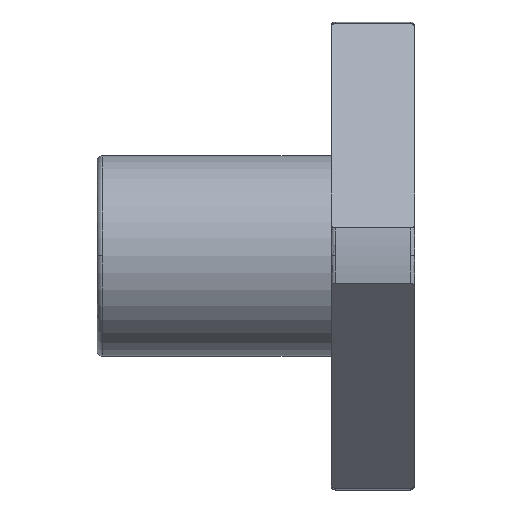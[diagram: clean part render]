
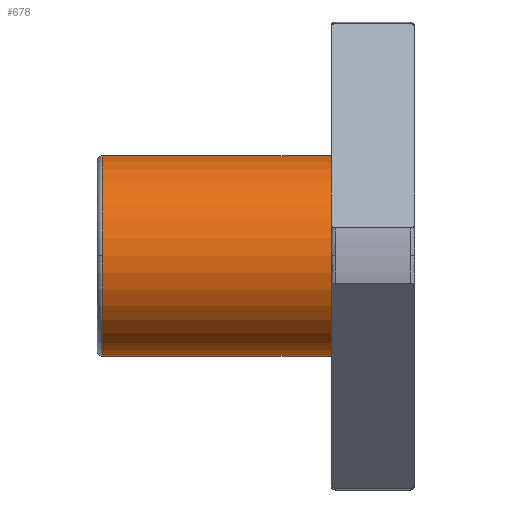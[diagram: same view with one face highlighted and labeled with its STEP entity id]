
A CAD part, top view. The second image highlights one B-rep face of the part: STEP entity #678.
In plain terms, the highlighted cylindrical face has radius 6 mm (diameter 12 mm), a partial arc.
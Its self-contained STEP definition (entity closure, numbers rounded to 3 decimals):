
#663 = PLANE('',#664);
#664 = AXIS2_PLACEMENT_3D('',#665,#666,#667);
#665 = CARTESIAN_POINT('',(-5.,9.875,0.));
#666 = DIRECTION('',(-1.,0.,0.));
#667 = DIRECTION('',(0.,-1.,0.));
#678 = ADVANCED_FACE('',(#679),#693,.T.);
#679 = FACE_BOUND('',#680,.T.);
#680 = EDGE_LOOP('',(#681,#716,#745,#774,#797));
#681 = ORIENTED_EDGE('',*,*,#682,.F.);
#682 = EDGE_CURVE('',#683,#685,#687,.T.);
#683 = VERTEX_POINT('',#684);
#684 = CARTESIAN_POINT('',(-18.7,6.,0.));
#685 = VERTEX_POINT('',#686);
#686 = CARTESIAN_POINT('',(-5.,6.,0.));
#687 = SURFACE_CURVE('',#688,(#692,#704),.PCURVE_S1.);
#688 = LINE('',#689,#690);
#689 = CARTESIAN_POINT('',(-11.85,6.,0.));
#690 = VECTOR('',#691,1.);
#691 = DIRECTION('',(1.,0.,0.));
#692 = PCURVE('',#693,#698);
#693 = CYLINDRICAL_SURFACE('',#694,6.);
#694 = AXIS2_PLACEMENT_3D('',#695,#696,#697);
#695 = CARTESIAN_POINT('',(-11.85,0.,0.));
#696 = DIRECTION('',(1.,0.,0.));
#697 = DIRECTION('',(-0.,1.,0.));
#698 = DEFINITIONAL_REPRESENTATION('',(#699),#703);
#699 = LINE('',#700,#701);
#700 = CARTESIAN_POINT('',(0.,0.));
#701 = VECTOR('',#702,1.);
#702 = DIRECTION('',(0.,1.));
#703 = ( GEOMETRIC_REPRESENTATION_CONTEXT(2) 
PARAMETRIC_REPRESENTATION_CONTEXT() REPRESENTATION_CONTEXT('2D SPACE',''
  ) );
#704 = PCURVE('',#705,#710);
#705 = CYLINDRICAL_SURFACE('',#706,6.);
#706 = AXIS2_PLACEMENT_3D('',#707,#708,#709);
#707 = CARTESIAN_POINT('',(-11.85,0.,0.));
#708 = DIRECTION('',(1.,0.,0.));
#709 = DIRECTION('',(-0.,1.,0.));
#710 = DEFINITIONAL_REPRESENTATION('',(#711),#715);
#711 = LINE('',#712,#713);
#712 = CARTESIAN_POINT('',(6.283,0.));
#713 = VECTOR('',#714,1.);
#714 = DIRECTION('',(0.,1.));
#715 = ( GEOMETRIC_REPRESENTATION_CONTEXT(2) 
PARAMETRIC_REPRESENTATION_CONTEXT() REPRESENTATION_CONTEXT('2D SPACE',''
  ) );
#716 = ORIENTED_EDGE('',*,*,#717,.T.);
#717 = EDGE_CURVE('',#683,#718,#720,.T.);
#718 = VERTEX_POINT('',#719);
#719 = CARTESIAN_POINT('',(-18.7,0.,6.));
#720 = SURFACE_CURVE('',#721,(#726,#733),.PCURVE_S1.);
#721 = CIRCLE('',#722,6.);
#722 = AXIS2_PLACEMENT_3D('',#723,#724,#725);
#723 = CARTESIAN_POINT('',(-18.7,0.,0.));
#724 = DIRECTION('',(1.,0.,0.));
#725 = DIRECTION('',(-0.,1.,0.));
#726 = PCURVE('',#693,#727);
#727 = DEFINITIONAL_REPRESENTATION('',(#728),#732);
#728 = LINE('',#729,#730);
#729 = CARTESIAN_POINT('',(0.,-6.85));
#730 = VECTOR('',#731,1.);
#731 = DIRECTION('',(1.,0.));
#732 = ( GEOMETRIC_REPRESENTATION_CONTEXT(2) 
PARAMETRIC_REPRESENTATION_CONTEXT() REPRESENTATION_CONTEXT('2D SPACE',''
  ) );
#733 = PCURVE('',#734,#739);
#734 = TOROIDAL_SURFACE('',#735,5.7,0.3);
#735 = AXIS2_PLACEMENT_3D('',#736,#737,#738);
#736 = CARTESIAN_POINT('',(-18.7,0.,0.));
#737 = DIRECTION('',(1.,0.,0.));
#738 = DIRECTION('',(0.,0.,-1.));
#739 = DEFINITIONAL_REPRESENTATION('',(#740),#744);
#740 = LINE('',#741,#742);
#741 = CARTESIAN_POINT('',(1.571,6.283));
#742 = VECTOR('',#743,1.);
#743 = DIRECTION('',(1.,0.));
#744 = ( GEOMETRIC_REPRESENTATION_CONTEXT(2) 
PARAMETRIC_REPRESENTATION_CONTEXT() REPRESENTATION_CONTEXT('2D SPACE',''
  ) );
#745 = ORIENTED_EDGE('',*,*,#746,.T.);
#746 = EDGE_CURVE('',#718,#747,#749,.T.);
#747 = VERTEX_POINT('',#748);
#748 = CARTESIAN_POINT('',(-18.7,-6.,0.));
#749 = SURFACE_CURVE('',#750,(#755,#762),.PCURVE_S1.);
#750 = CIRCLE('',#751,6.);
#751 = AXIS2_PLACEMENT_3D('',#752,#753,#754);
#752 = CARTESIAN_POINT('',(-18.7,0.,0.));
#753 = DIRECTION('',(1.,0.,0.));
#754 = DIRECTION('',(-0.,1.,0.));
#755 = PCURVE('',#693,#756);
#756 = DEFINITIONAL_REPRESENTATION('',(#757),#761);
#757 = LINE('',#758,#759);
#758 = CARTESIAN_POINT('',(0.,-6.85));
#759 = VECTOR('',#760,1.);
#760 = DIRECTION('',(1.,0.));
#761 = ( GEOMETRIC_REPRESENTATION_CONTEXT(2) 
PARAMETRIC_REPRESENTATION_CONTEXT() REPRESENTATION_CONTEXT('2D SPACE',''
  ) );
#762 = PCURVE('',#763,#768);
#763 = TOROIDAL_SURFACE('',#764,5.7,0.3);
#764 = AXIS2_PLACEMENT_3D('',#765,#766,#767);
#765 = CARTESIAN_POINT('',(-18.7,0.,0.));
#766 = DIRECTION('',(1.,0.,0.));
#767 = DIRECTION('',(0.,0.,-1.));
#768 = DEFINITIONAL_REPRESENTATION('',(#769),#773);
#769 = LINE('',#770,#771);
#770 = CARTESIAN_POINT('',(1.571,6.283));
#771 = VECTOR('',#772,1.);
#772 = DIRECTION('',(1.,0.));
#773 = ( GEOMETRIC_REPRESENTATION_CONTEXT(2) 
PARAMETRIC_REPRESENTATION_CONTEXT() REPRESENTATION_CONTEXT('2D SPACE',''
  ) );
#774 = ORIENTED_EDGE('',*,*,#775,.F.);
#775 = EDGE_CURVE('',#776,#747,#778,.T.);
#776 = VERTEX_POINT('',#777);
#777 = CARTESIAN_POINT('',(-5.,-6.,0.));
#778 = SURFACE_CURVE('',#779,(#783,#790),.PCURVE_S1.);
#779 = LINE('',#780,#781);
#780 = CARTESIAN_POINT('',(-11.85,-6.,0.));
#781 = VECTOR('',#782,1.);
#782 = DIRECTION('',(-1.,-0.,-0.));
#783 = PCURVE('',#693,#784);
#784 = DEFINITIONAL_REPRESENTATION('',(#785),#789);
#785 = LINE('',#786,#787);
#786 = CARTESIAN_POINT('',(3.142,0.));
#787 = VECTOR('',#788,1.);
#788 = DIRECTION('',(0.,-1.));
#789 = ( GEOMETRIC_REPRESENTATION_CONTEXT(2) 
PARAMETRIC_REPRESENTATION_CONTEXT() REPRESENTATION_CONTEXT('2D SPACE',''
  ) );
#790 = PCURVE('',#705,#791);
#791 = DEFINITIONAL_REPRESENTATION('',(#792),#796);
#792 = LINE('',#793,#794);
#793 = CARTESIAN_POINT('',(3.142,0.));
#794 = VECTOR('',#795,1.);
#795 = DIRECTION('',(0.,-1.));
#796 = ( GEOMETRIC_REPRESENTATION_CONTEXT(2) 
PARAMETRIC_REPRESENTATION_CONTEXT() REPRESENTATION_CONTEXT('2D SPACE',''
  ) );
#797 = ORIENTED_EDGE('',*,*,#798,.F.);
#798 = EDGE_CURVE('',#685,#776,#799,.T.);
#799 = SURFACE_CURVE('',#800,(#805,#812),.PCURVE_S1.);
#800 = CIRCLE('',#801,6.);
#801 = AXIS2_PLACEMENT_3D('',#802,#803,#804);
#802 = CARTESIAN_POINT('',(-5.,0.,0.));
#803 = DIRECTION('',(1.,0.,0.));
#804 = DIRECTION('',(-0.,1.,0.));
#805 = PCURVE('',#693,#806);
#806 = DEFINITIONAL_REPRESENTATION('',(#807),#811);
#807 = LINE('',#808,#809);
#808 = CARTESIAN_POINT('',(0.,6.85));
#809 = VECTOR('',#810,1.);
#810 = DIRECTION('',(1.,0.));
#811 = ( GEOMETRIC_REPRESENTATION_CONTEXT(2) 
PARAMETRIC_REPRESENTATION_CONTEXT() REPRESENTATION_CONTEXT('2D SPACE',''
  ) );
#812 = PCURVE('',#663,#813);
#813 = DEFINITIONAL_REPRESENTATION('',(#814),#822);
#814 = ( BOUNDED_CURVE() B_SPLINE_CURVE(2,(#815,#816,#817,#818,#819,#820
,#821),.UNSPECIFIED.,.T.,.F.) B_SPLINE_CURVE_WITH_KNOTS((1,2,2,2,2,1),(
    -2.094,0.,2.094,4.189,6.283,
8.378),.UNSPECIFIED.) CURVE() GEOMETRIC_REPRESENTATION_ITEM() 
RATIONAL_B_SPLINE_CURVE((1.,0.5,1.,0.5,1.,0.5,1.)) REPRESENTATION_ITEM(
  '') );
#815 = CARTESIAN_POINT('',(3.875,0.));
#816 = CARTESIAN_POINT('',(3.875,10.392));
#817 = CARTESIAN_POINT('',(12.875,5.196));
#818 = CARTESIAN_POINT('',(21.875,0.));
#819 = CARTESIAN_POINT('',(12.875,-5.196));
#820 = CARTESIAN_POINT('',(3.875,-10.392));
#821 = CARTESIAN_POINT('',(3.875,0.));
#822 = ( GEOMETRIC_REPRESENTATION_CONTEXT(2) 
PARAMETRIC_REPRESENTATION_CONTEXT() REPRESENTATION_CONTEXT('2D SPACE',''
  ) );
